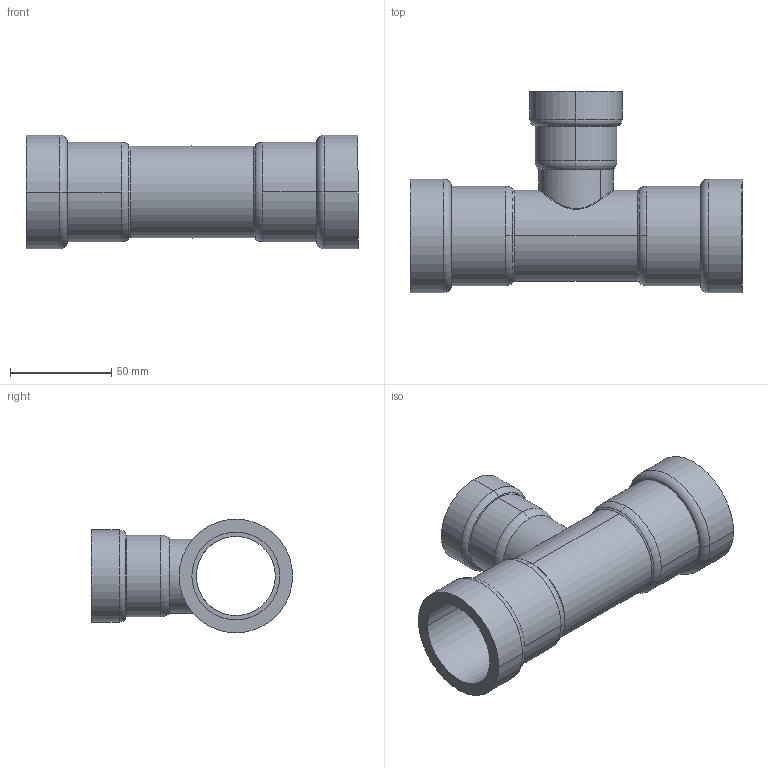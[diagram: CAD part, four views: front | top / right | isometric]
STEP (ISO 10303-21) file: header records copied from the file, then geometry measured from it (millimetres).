
FILE_DESCRIPTION(('Creo Elements/Direct Modeling STEP Export'),'2;1');
FILE_NAME('C9415_1-1-4_1_1-1-4.stp','2020-07-15T 9:11:49',(''),(''),'PTC Creo Elements/Direct Modeling STEP processor for AP214 (Solid Model)','PTC Creo Elements/Direct Modeling 19.0C 15-Aug-2015 (C) Parametric Technology GmbH','');
FILE_SCHEMA(('AUTOMOTIVE_DESIGN { 1 0 10303 214 1 1 1 1 }'));
Length unit declared in the file: millimetre
Products named in the file (2): 9415_1-1-4_1_1-1-4
Assembly tree (1 placements, depth 2):
  9415_1-1-4_1_1-1-4
    9415_1-1-4_1_1-1-4
Bounding box: 163.66 x 99.2 x 56 mm (x, y, z)
Volume: 109367.4 mm3; surface area: 61512 mm2
Topology: 1 solids, 1 shells, 58 faces, 142 edges, 90 vertices
Faces by surface type: cylinder 26, torus 12, cone 10, plane 6, bspline 4
Entity records: 6332 total; most frequent: CARTESIAN_POINT 5083, ORIENTED_EDGE 284, DIRECTION 230, EDGE_CURVE 142, AXIS2_PLACEMENT_3D 97, VERTEX_POINT 90, EDGE_LOOP 66, FACE_OUTER_BOUND 58
